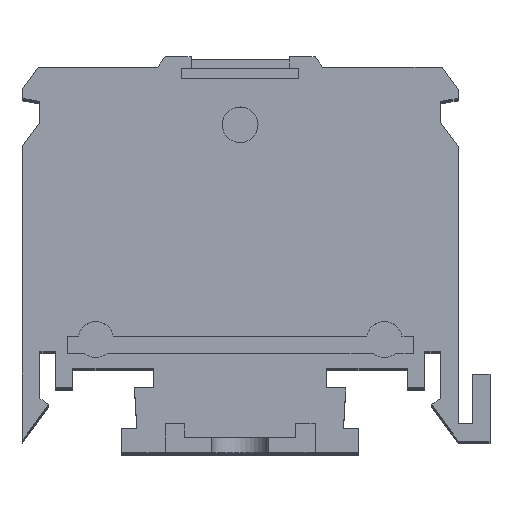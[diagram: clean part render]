
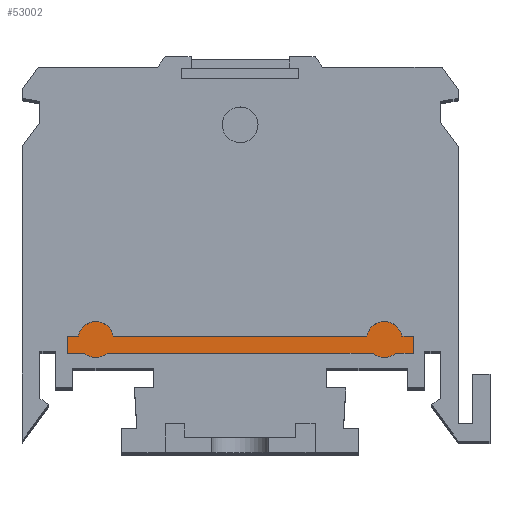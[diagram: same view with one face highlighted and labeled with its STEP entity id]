
A CAD part, top view. The second image highlights one B-rep face of the part: STEP entity #53002.
In plain terms, the highlighted planar face has unit normal (0, 0, 1).
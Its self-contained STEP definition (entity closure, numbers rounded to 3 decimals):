
#1760 = CIRCLE ( 'NONE', #67634, 1.55 ) ;
#1765 = CIRCLE ( 'NONE', #67637, 1.55 ) ;
#5596 = CARTESIAN_POINT ( 'NONE',  ( -12.5, 9.8, -1. ) ) ;
#5597 = DIRECTION ( 'NONE',  ( 0., 0., 1. ) ) ;
#5598 = DIRECTION ( 'NONE',  ( 1., 0., 0. ) ) ;
#5605 = CARTESIAN_POINT ( 'NONE',  ( 12.5, 9.8, -1. ) ) ;
#5606 = DIRECTION ( 'NONE',  ( 0., 0., 1. ) ) ;
#5607 = DIRECTION ( 'NONE',  ( 1., 0., 0. ) ) ;
#17409 = CARTESIAN_POINT ( 'NONE',  ( 11.519, 8.6, -1. ) ) ;
#17410 = CARTESIAN_POINT ( 'NONE',  ( -13.481, 8.6, -1. ) ) ;
#17424 = CARTESIAN_POINT ( 'NONE',  ( 13.481, 8.6, -1. ) ) ;
#18370 = FACE_OUTER_BOUND ( 'NONE', #67880, .T. ) ;
#19263 = CARTESIAN_POINT ( 'NONE',  ( -11.519, 8.6, -1. ) ) ;
#22465 = AXIS2_PLACEMENT_3D ( 'NONE', #23604, #23616, #23618 ) ;
#23604 = CARTESIAN_POINT ( 'NONE',  ( -12.5, 9.8, -1. ) ) ;
#23609 = PLANE ( 'NONE',  #22465 ) ;
#23616 = DIRECTION ( 'NONE',  ( 0., 0., 1. ) ) ;
#23618 = DIRECTION ( 'NONE',  ( 1., 0., 0. ) ) ;
#40610 = AXIS2_PLACEMENT_3D ( 'NONE', #60979, #60994, #60995 ) ;
#40611 = AXIS2_PLACEMENT_3D ( 'NONE', #60982, #61004, #61005 ) ;
#42244 = EDGE_CURVE ( 'NONE', #50965, #50990, #1760, .T. ) ;
#42248 = EDGE_CURVE ( 'NONE', #50964, #50979, #1765, .T. ) ;
#45666 = ORIENTED_EDGE ( 'NONE', *, *, #67233, .T. ) ;
#45671 = ORIENTED_EDGE ( 'NONE', *, *, #67230, .T. ) ;
#47052 = ORIENTED_EDGE ( 'NONE', *, *, #67229, .T. ) ;
#47060 = ORIENTED_EDGE ( 'NONE', *, *, #67234, .T. ) ;
#47063 = ORIENTED_EDGE ( 'NONE', *, *, #67235, .T. ) ;
#47077 = ORIENTED_EDGE ( 'NONE', *, *, #42248, .T. ) ;
#47078 = ORIENTED_EDGE ( 'NONE', *, *, #67228, .T. ) ;
#47085 = ORIENTED_EDGE ( 'NONE', *, *, #67232, .T. ) ;
#47095 = ORIENTED_EDGE ( 'NONE', *, *, #42244, .T. ) ;
#47100 = ORIENTED_EDGE ( 'NONE', *, *, #67231, .T. ) ;
#47113 = ORIENTED_EDGE ( 'NONE', *, *, #67227, .T. ) ;
#47117 = ORIENTED_EDGE ( 'NONE', *, *, #67226, .T. ) ;
#50964 = VERTEX_POINT ( 'NONE', #17409 ) ;
#50965 = VERTEX_POINT ( 'NONE', #17410 ) ;
#50979 = VERTEX_POINT ( 'NONE', #17424 ) ;
#50990 = VERTEX_POINT ( 'NONE', #19263 ) ;
#53002 = ADVANCED_FACE ( 'NONE', ( #18370 ), #23609, .T. ) ;
#58719 = LINE ( 'NONE', #61006, #58733 ) ;
#58721 = LINE ( 'NONE', #60996, #58724 ) ;
#58724 = VECTOR ( 'NONE', #60997, 1000. ) ;
#58730 = LINE ( 'NONE', #60991, #58731 ) ;
#58731 = VECTOR ( 'NONE', #60992, 1000. ) ;
#58733 = VECTOR ( 'NONE', #61007, 1000. ) ;
#58734 = CIRCLE ( 'NONE', #40610, 1.55 ) ;
#58735 = LINE ( 'NONE', #60998, #58736 ) ;
#58736 = VECTOR ( 'NONE', #60999, 1000. ) ;
#58737 = LINE ( 'NONE', #61000, #58738 ) ;
#58738 = VECTOR ( 'NONE', #61001, 1000. ) ;
#58739 = LINE ( 'NONE', #61002, #58740 ) ;
#58740 = VECTOR ( 'NONE', #61003, 1000. ) ;
#58743 = CIRCLE ( 'NONE', #40611, 1.55 ) ;
#58744 = LINE ( 'NONE', #61008, #58745 ) ;
#58745 = VECTOR ( 'NONE', #61009, 1000. ) ;
#58746 = LINE ( 'NONE', #61010, #58747 ) ;
#58747 = VECTOR ( 'NONE', #61011, 1000. ) ;
#60979 = CARTESIAN_POINT ( 'NONE',  ( -12.5, 9.8, -1. ) ) ;
#60982 = CARTESIAN_POINT ( 'NONE',  ( 12.5, 9.8, -1. ) ) ;
#60991 = CARTESIAN_POINT ( 'NONE',  ( -15., 8.6, -1. ) ) ;
#60992 = DIRECTION ( 'NONE',  ( 1., 0., 0. ) ) ;
#60994 = DIRECTION ( 'NONE',  ( 0., 0., 1. ) ) ;
#60995 = DIRECTION ( 'NONE',  ( 1., 0., 0. ) ) ;
#60996 = CARTESIAN_POINT ( 'NONE',  ( -15., 10.1, -1. ) ) ;
#60997 = DIRECTION ( 'NONE',  ( -1., 0., 0. ) ) ;
#60998 = CARTESIAN_POINT ( 'NONE',  ( -15., 10.1, -1. ) ) ;
#60999 = DIRECTION ( 'NONE',  ( 0., -1., 0. ) ) ;
#61000 = CARTESIAN_POINT ( 'NONE',  ( -15., 8.6, -1. ) ) ;
#61001 = DIRECTION ( 'NONE',  ( 1., 0., 0. ) ) ;
#61002 = CARTESIAN_POINT ( 'NONE',  ( -15., 8.6, -1. ) ) ;
#61003 = DIRECTION ( 'NONE',  ( 1., 0., 0. ) ) ;
#61004 = DIRECTION ( 'NONE',  ( 0., 0., 1. ) ) ;
#61005 = DIRECTION ( 'NONE',  ( 1., 0., 0. ) ) ;
#61006 = CARTESIAN_POINT ( 'NONE',  ( -15., 10.1, -1. ) ) ;
#61007 = DIRECTION ( 'NONE',  ( -1., 0., 0. ) ) ;
#61008 = CARTESIAN_POINT ( 'NONE',  ( 15., 10.1, -1. ) ) ;
#61009 = DIRECTION ( 'NONE',  ( 0., 1., 0. ) ) ;
#61010 = CARTESIAN_POINT ( 'NONE',  ( -15., 10.1, -1. ) ) ;
#61011 = DIRECTION ( 'NONE',  ( -1., 0., 0. ) ) ;
#64032 = CARTESIAN_POINT ( 'NONE',  ( -10.979, 10.1, -1. ) ) ;
#64034 = CARTESIAN_POINT ( 'NONE',  ( -14.021, 10.1, -1. ) ) ;
#64035 = CARTESIAN_POINT ( 'NONE',  ( 15., 8.6, -1. ) ) ;
#64037 = CARTESIAN_POINT ( 'NONE',  ( 10.979, 10.1, -1. ) ) ;
#64039 = CARTESIAN_POINT ( 'NONE',  ( 14.021, 10.1, -1. ) ) ;
#64040 = CARTESIAN_POINT ( 'NONE',  ( 15., 10.1, -1. ) ) ;
#64042 = CARTESIAN_POINT ( 'NONE',  ( -15., 8.6, -1. ) ) ;
#64044 = CARTESIAN_POINT ( 'NONE',  ( -15., 10.1, -1. ) ) ;
#67226 = EDGE_CURVE ( 'NONE', #50979, #67836, #58730, .T. ) ;
#67227 = EDGE_CURVE ( 'NONE', #67834, #67835, #58734, .T. ) ;
#67228 = EDGE_CURVE ( 'NONE', #67835, #67841, #58721, .T. ) ;
#67229 = EDGE_CURVE ( 'NONE', #67841, #67840, #58735, .T. ) ;
#67230 = EDGE_CURVE ( 'NONE', #67840, #50965, #58737, .T. ) ;
#67231 = EDGE_CURVE ( 'NONE', #50990, #50964, #58739, .T. ) ;
#67232 = EDGE_CURVE ( 'NONE', #67838, #67837, #58743, .T. ) ;
#67233 = EDGE_CURVE ( 'NONE', #67839, #67838, #58719, .T. ) ;
#67234 = EDGE_CURVE ( 'NONE', #67836, #67839, #58744, .T. ) ;
#67235 = EDGE_CURVE ( 'NONE', #67837, #67834, #58746, .T. ) ;
#67634 = AXIS2_PLACEMENT_3D ( 'NONE', #5596, #5597, #5598 ) ;
#67637 = AXIS2_PLACEMENT_3D ( 'NONE', #5605, #5606, #5607 ) ;
#67834 = VERTEX_POINT ( 'NONE', #64032 ) ;
#67835 = VERTEX_POINT ( 'NONE', #64034 ) ;
#67836 = VERTEX_POINT ( 'NONE', #64035 ) ;
#67837 = VERTEX_POINT ( 'NONE', #64037 ) ;
#67838 = VERTEX_POINT ( 'NONE', #64039 ) ;
#67839 = VERTEX_POINT ( 'NONE', #64040 ) ;
#67840 = VERTEX_POINT ( 'NONE', #64042 ) ;
#67841 = VERTEX_POINT ( 'NONE', #64044 ) ;
#67880 = EDGE_LOOP ( 'NONE', ( #47113, #47078, #47052, #45671, #47095, #47100, #47077, #47117, #47060, #45666, #47085, #47063 ) ) ;
